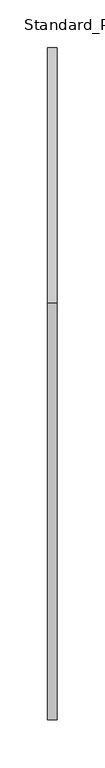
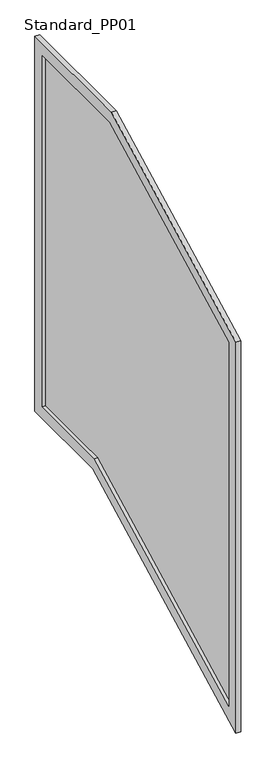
"""IFC4 building model written with IfcOpenShell, lengths in millimetres: railing geometry, Baluster-Landing-Panel-VIVA-STRUC-Lower : Standard_PP01."""

from ifc_helpers import new_model, si_unit, frame, origin, place, context, project, spatial, polyline, outline, extrude, source, transform, mapped, element, save


def standard_pp01_c1a8e514(model_context):
    return source(origin(), model_context, "Body", "SweptSolid", [
        extrude(outline(polyline([(493.8129998, 157.4996701), (25.4, -86.3407036), (25.4, 689.579329), (441.4187834, 906.145), (676.4363344, 906.145), (676.4363344, 157.4996701), (493.8129998, 157.4996701)])), frame((14.2584857, 0.0, 0.0), z_axis=(1.0, 0.0, 0.0), x_axis=(0.0, 1.0, 0.0)), (0.0, 0.0, 1.0), 2.9972),
        extrude(outline(polyline([(0.0, -128.1986081), (0.0, 704.9924273), (435.2034429, 931.545), (701.8363344, 931.545), (701.8363344, 132.0996701), (500.0283402, 132.0996701), (0.0, -128.1986081)]), holes=[polyline([(676.4363344, 906.145), (441.4187834, 906.145), (25.4, 689.579329), (25.4, -86.3407036), (493.8129998, 157.4996701), (676.4363344, 157.4996701), (676.4363344, 906.145)])]), frame((7.6036857, 0.0, 0.0), z_axis=(1.0, 0.0, 0.0), x_axis=(0.0, 1.0, 0.0)), (0.0, 0.0, 1.0), 9.652),
    ])


if __name__ == "__main__":
    model = new_model("IFC4")
    model_context = context("Model", 3, world=origin())
    ifc_project = project(units=[si_unit("LENGTHUNIT", "METRE", prefix="MILLI")], contexts=[model_context])
    site = spatial("IfcSite", under=ifc_project)
    building = spatial("IfcBuilding", under=site)
    placement = place(None, origin())
    standard_pp01_shape = standard_pp01_c1a8e514(model_context)
    element("IfcRailing", 1, ObjectType="Baluster-Landing-Panel-VIVA-STRUC-Lower : Standard_PP01", at=placement, inside=building, context=model_context, shape_type="MappedRepresentation", body=[
        mapped(standard_pp01_shape, transform((0.0, 0.0, 0.0), x_axis=(1.0, 0.0, 0.0), y_axis=(0.0, 1.0, 0.0), z_axis=(0.0, 0.0, 1.0))),
    ])
    save(model, "model.ifc")
